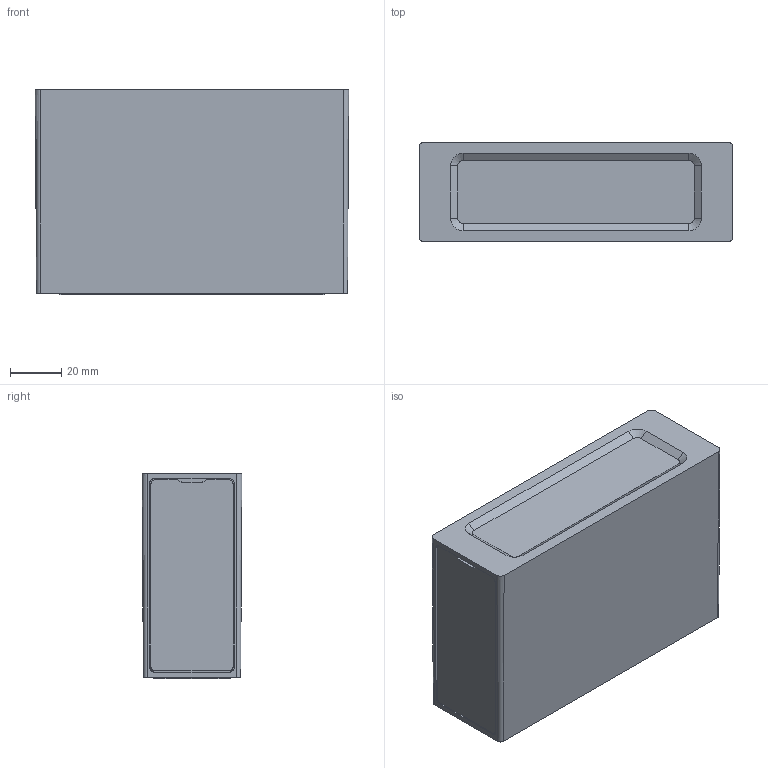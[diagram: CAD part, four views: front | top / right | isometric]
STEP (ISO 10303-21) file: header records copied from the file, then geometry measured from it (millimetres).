
FILE_DESCRIPTION(/* description */ (''),/* implementation_level */ '2;1');
FILE_NAME(/* name */ 'Darcy 4 Cells Assembly.stp',/* time_stamp */ '2026-02-19T10:52:00+11:00',/* author */ ('Mlight'),/* organization */ (''),/* preprocessor_version */ 'ST-DEVELOPER v20',/* originating_system */ 'Autodesk Inventor 2024',/* authorisation */ '');
FILE_SCHEMA (('AUTOMOTIVE_DESIGN { 1 0 10303 214 3 1 1 }'));
Products named in the file (23): Darcy 4 Cells Assembly; DARCY PCB With Solder Clip 4 Cell; Ledil Darcy PCB; C18696; LED Board 2000 A0; DARCY-4x1; Copy (1) of C19683_DARCY-SHD_004_MechanicalModel_001; Copy (1) of Mechanical-LENS; Copy (2) of Mechanical-LENS; Copy (3) of Mechanical-LENS; Copy (4) of Mechanical-LENS; Evelo X Plastic Internal Body Darcy; Evelo X Aluminium End Cap; Evelo Modular SM Outer Body; Surface Mount Bracket; Evelo X End Cap Cover Darcy; Evelo X Heat Sink Toshine Revision; Evelo X Gasket; Air Vent RSV-M12 1.5; Air Vent RSV-M12 1.5_1; Heyco Snap In Liquid Tight Bushing 4014; Magnet; AS 1427 - M4 x 10
Assembly tree (47 placements, depth 3):
  Darcy 4 Cells Assembly
    DARCY PCB With Solder Clip 4 Cell
      Ledil Darcy PCB
      C18696  x4
      LED Board 2000 A0  x2
    DARCY-4x1
      Copy (1) of C19683_DARCY-SHD_004_MechanicalModel_001
      Copy (1) of Mechanical-LENS
      Copy (2) of Mechanical-LENS
      Copy (3) of Mechanical-LENS
      Copy (4) of Mechanical-LENS
    Evelo X Plastic Internal Body Darcy
    Evelo X Aluminium End Cap  x2
    Evelo Modular SM Outer Body
    Surface Mount Bracket
    Evelo X End Cap Cover Darcy  x2
    Evelo X Heat Sink Toshine Revision
    Evelo X Gasket  x2
    AS 1427 - M4 x 10  x14
    Air Vent RSV-M12 1.5  x2
    Air Vent RSV-M12 1.5_1  x2
    Heyco Snap In Liquid Tight Bushing 4014
    Magnet  x4
Bounding box: 122.22 x 38.92 x 80 mm (x, y, z)
Volume: 199965.7 mm3; surface area: 168380.6 mm2
Topology: 45 solids, 45 shells, 3599 faces, 9344 edges, 5699 vertices
Faces by surface type: bspline 1197, plane 917, cylinder 644, cone 468, torus 314, sphere 59
Full cylindrical faces by diameter (mm): 1.1 x2, 1.6 x2, 2.1 x1, 3.2 x2, 3.242 x6, 3.571 x14, 4 x15, 4.3 x2, 4.5 x18, 4.8 x4, 7 x14, 8 x1, 10 x8, 10.5 x6, 12.5 x1, 19.5 x1
Entity records: 158947 total; most frequent: CARTESIAN_POINT 92414, ORIENTED_EDGE 14826, DIRECTION 12327, EDGE_CURVE 7413, AXIS2_PLACEMENT_3D 5162, VERTEX_POINT 4520, EDGE_LOOP 3013, FACE_OUTER_BOUND 2916
